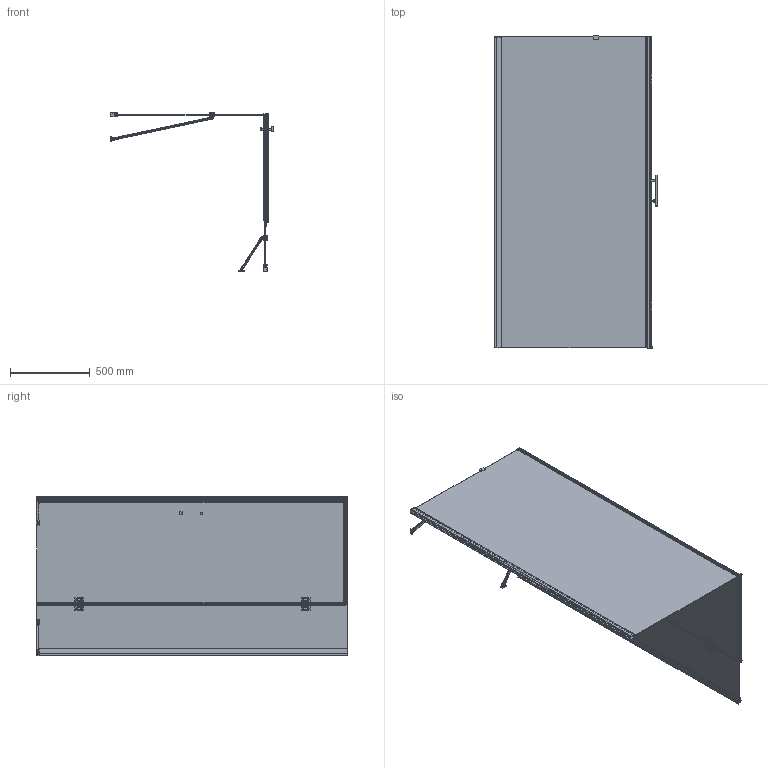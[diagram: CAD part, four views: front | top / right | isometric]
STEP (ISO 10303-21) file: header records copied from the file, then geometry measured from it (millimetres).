
FILE_DESCRIPTION(/* description */ (''),/* implementation_level */ '2;1');
FILE_NAME(/* name */ 'c:\worker\convert-fusion-r08\tmp\job-1\12\output\files\5bb945e7-0308-45c4-8469-24a38aca5768\767e754d-8636-490f-8880-76de7f1165d9.stp',/* time_stamp */ '2020-10-20T11:51:16+00:00',/* author */ (''),/* organization */ (''),/* preprocessor_version */ 'ST-DEVELOPER v18.1',/* originating_system */ 'Autodesk Translation Framework v9.3.0.1241',/* authorisation */ '');
FILE_SCHEMA (('AUTOMOTIVE_DESIGN { 1 0 10303 214 3 1 1 }'));
Products named in the file (2): !MH1010; !ADR10X v2
Assembly tree (1 placements, depth 2):
  !MH1010
    !ADR10X v2
Bounding box: 1020.23 x 1955.35 x 997.04 mm (x, y, z)
Volume: 23022553.5 mm3; surface area: 9551761.4 mm2
Topology: 64 solids, 64 shells, 3394 faces, 8550 edges, 5278 vertices
Faces by surface type: plane 1509, cylinder 904, bspline 783, torus 116, cone 58, sphere 24
Full cylindrical faces by diameter (mm): 1.85 x4, 2 x4, 2.264 x8, 2.544 x4, 3.5 x4, 3.6 x49, 4 x14, 4.2 x2, 5 x12, 5.1 x1, 5.992 x2, 6 x6, 6.5 x4, 7 x2, 7.2 x4, 7.5 x4, 8.5 x2, 9.6 x8, 10 x2, 10.6 x8, 10.8 x4, 11.452 x4, 11.6 x8, 11.8 x8
Entity records: 306406 total; most frequent: CARTESIAN_POINT 229381, ORIENTED_EDGE 17044, DIRECTION 14191, EDGE_CURVE 8522, VERTEX_POINT 5278, LINE 4833, VECTOR 4833, AXIS2_PLACEMENT_3D 4679
